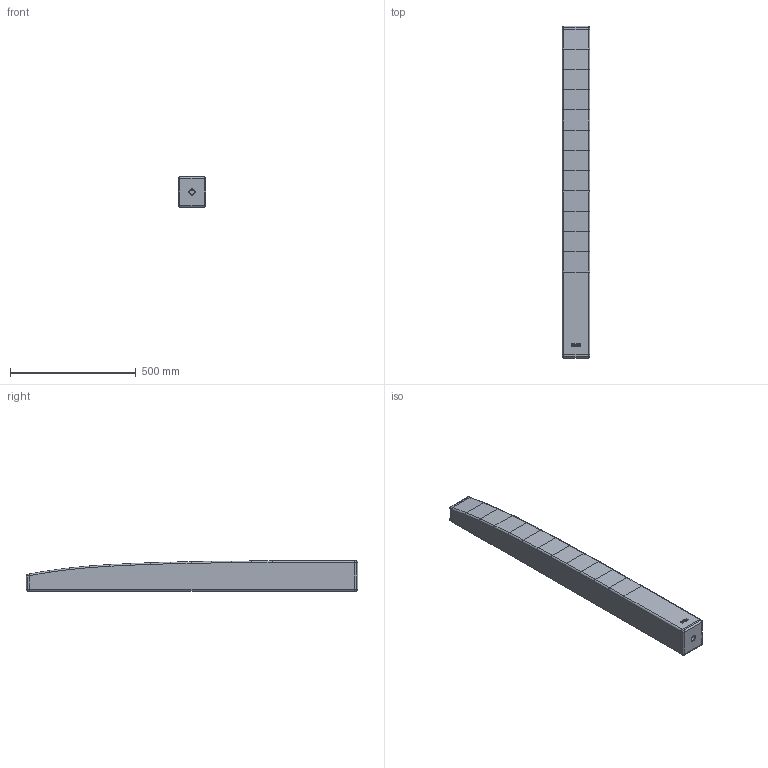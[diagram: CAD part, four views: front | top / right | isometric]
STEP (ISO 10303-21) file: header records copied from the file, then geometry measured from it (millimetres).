
FILE_DESCRIPTION (( 'STEP AP203' ), '1' );
FILE_NAME ('SEEBURG_Monopod-L16j.STEP', '2014-04-04T07:07:35', ( 'Michael Anter' ), ( 'SEEBURG acoustic line GmbH' ), 'SwSTEP 2.0', 'SolidWorks 2009', '' );
FILE_SCHEMA (( 'CONFIG_CONTROL_DESIGN' ));
Length unit declared in the file: millimetre
Products named in the file (8): SEEBURG_Logo_neu_Klein; Deckel; Seitenteil02; Einbauten; Boden; SEEBURG_Monopod-L16j; Seitenteil; Front
Assembly tree (7 placements, depth 2):
  SEEBURG_Monopod-L16j
    Front
    Seitenteil
    SEEBURG_Logo_neu_Klein
    Einbauten
    Seitenteil02
    Deckel
    Boden
Bounding box: 110 x 1320 x 120 mm (x, y, z)
Volume: 4897438.8 mm3; surface area: 1061157.2 mm2
Topology: 32 solids, 32 shells, 521 faces, 1276 edges, 812 vertices
Faces by surface type: plane 289, bspline 130, cylinder 82, sphere 12, cone 8
Entity records: 22210 total; most frequent: CARTESIAN_POINT 10093, ORIENTED_EDGE 2528, DIRECTION 1882, EDGE_CURVE 1264, LINE 856, VECTOR 856, VERTEX_POINT 812, EDGE_LOOP 550
